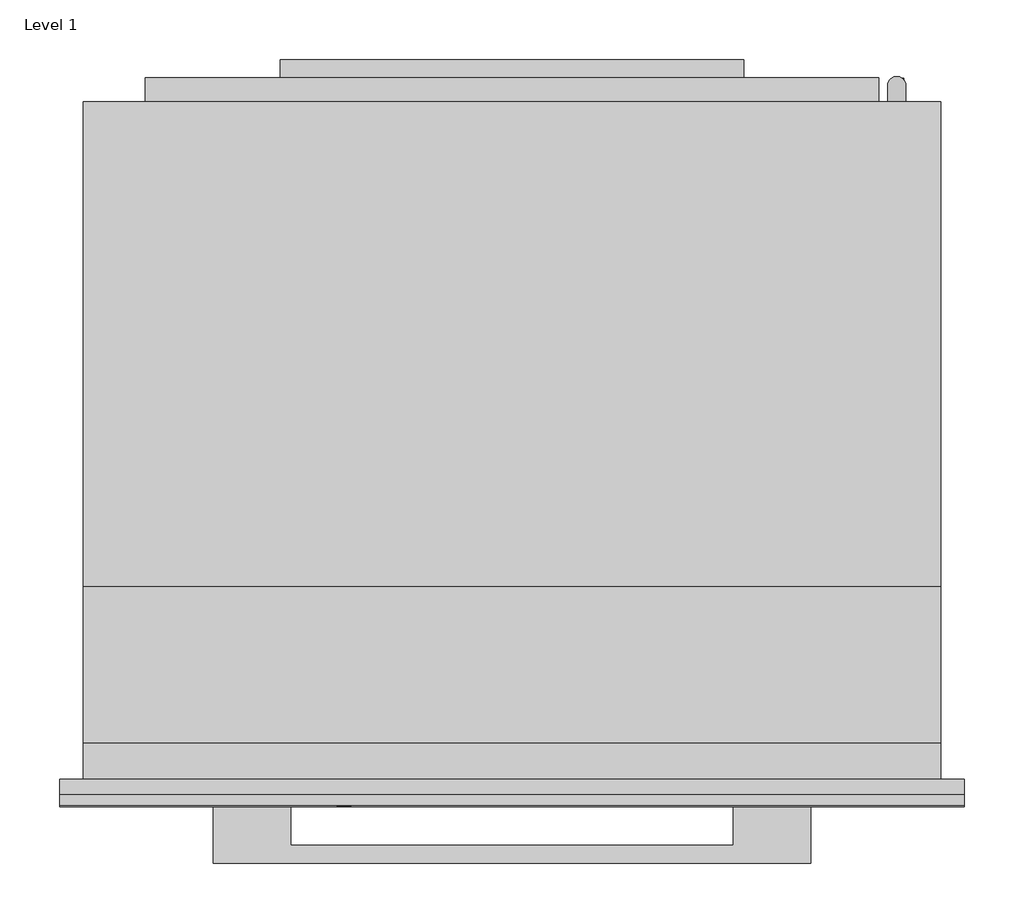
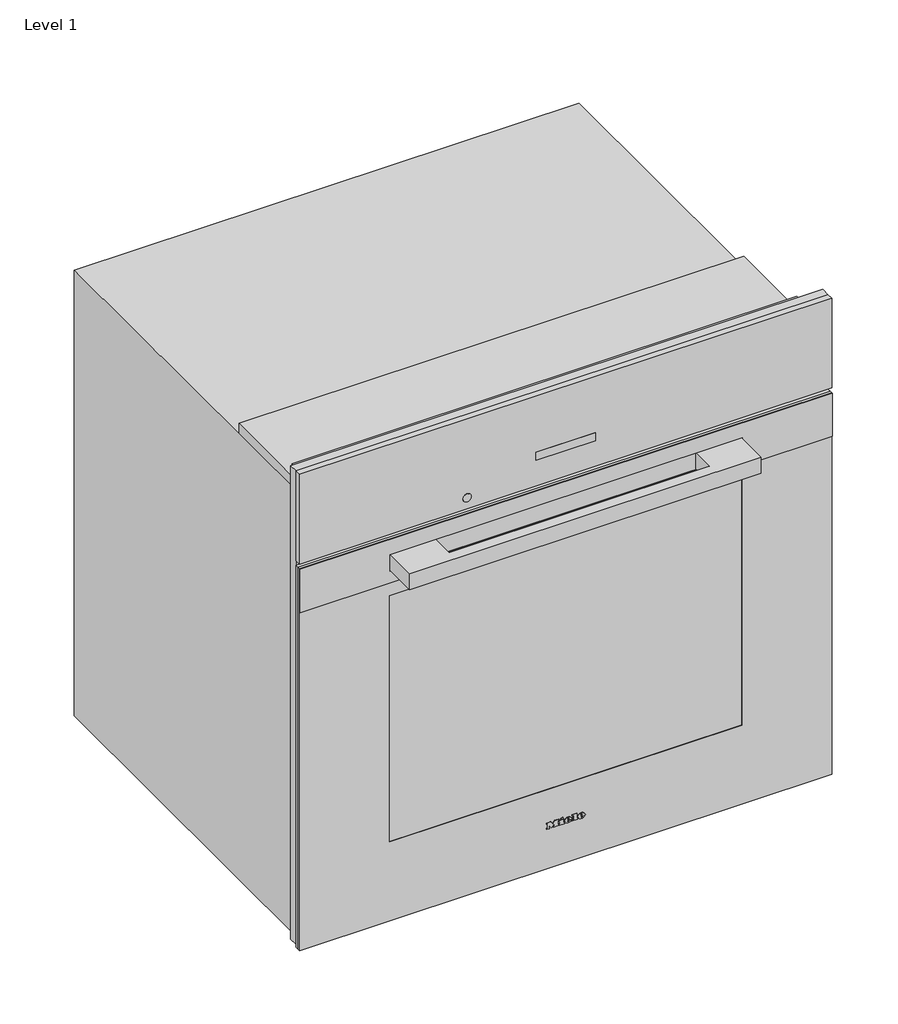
# One storey: 1 proxy.
"""IFC4 building model written with IfcOpenShell, lengths in millimetres."""

from ifc_helpers import new_model, si_unit, origin, place, context, project, spatial, transform, mapped, element, save
from components import specialty_equipment_05982ed7

model = new_model("IFC4")

# Units and contexts
model_context = context("Model", 3, world=origin())
ifc_project = project(units=[si_unit("LENGTHUNIT", "METRE", prefix="MILLI")], contexts=[model_context])

# Site, building, storey
site = spatial("IfcSite", under=ifc_project)
building = spatial("IfcBuilding", under=site)
storey = spatial("IfcBuildingStorey", under=building, Name="Level 1", Elevation=0.0)

# Proxy
placement = place(None, origin())
specialty_equipment_shape = specialty_equipment_05982ed7(model_context)
element("IfcBuildingElementProxy", 1, Name="11805500_USA_H7280BP_EDST-CLST : 22728045_USA_11805500_H7280BP_EDST-CLST", ObjectType="11805500_USA_H7280BP_EDST-CLST : 22728045_USA_11805500_H7280BP_EDST-CLST", at=placement, inside=storey, context=model_context, shape_type="MappedRepresentation", body=[
    mapped(specialty_equipment_shape, transform((0.0, 0.0, 0.0), x_axis=(1.0, 0.0, 0.0), y_axis=(0.0, 1.0, 0.0), z_axis=(0.0, 0.0, 1.0))),
])

save(model, "model.ifc")
